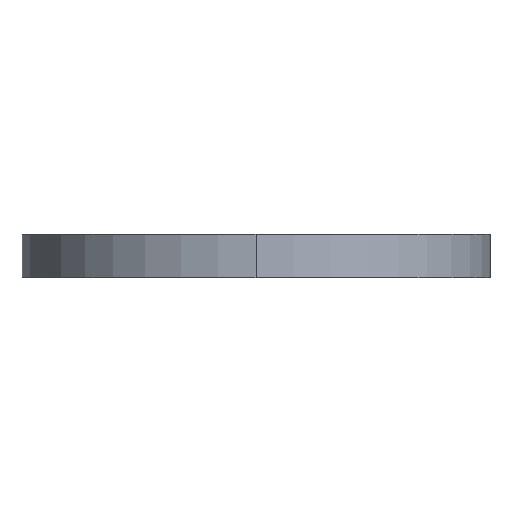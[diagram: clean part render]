
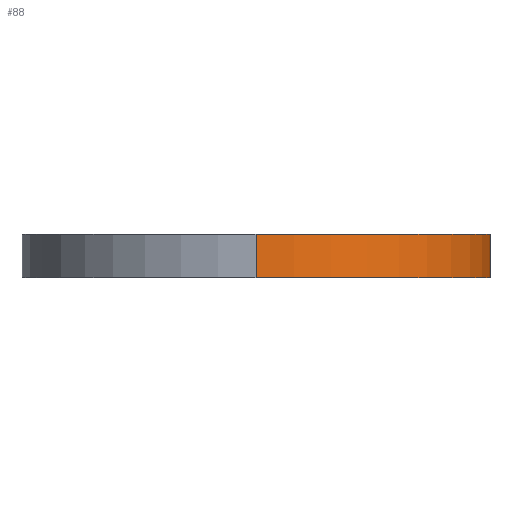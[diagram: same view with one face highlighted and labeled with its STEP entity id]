
A CAD part, left-side view. The second image highlights one B-rep face of the part: STEP entity #88.
In plain terms, the highlighted cylindrical face has radius 21.5 mm (diameter 43 mm), a partial arc.
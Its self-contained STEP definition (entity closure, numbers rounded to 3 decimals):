
#35 = CARTESIAN_POINT ( 'NONE',  ( -21.5, 0., 0. ) ) ;
#88 = ADVANCED_FACE ( 'NONE', ( #656 ), #309, .T. ) ;
#126 = DIRECTION ( 'NONE',  ( 0., 0., -1. ) ) ;
#134 = VERTEX_POINT ( 'NONE', #147 ) ;
#137 = AXIS2_PLACEMENT_3D ( 'NONE', #979, #366, #1001 ) ;
#147 = CARTESIAN_POINT ( 'NONE',  ( -21.5, 0., 4. ) ) ;
#154 = VECTOR ( 'NONE', #919, 1000. ) ;
#178 = EDGE_LOOP ( 'NONE', ( #1032, #518, #1028, #773 ) ) ;
#220 = LINE ( 'NONE', #490, #742 ) ;
#241 = CARTESIAN_POINT ( 'NONE',  ( 16.61, -13.651, 4. ) ) ;
#299 = EDGE_CURVE ( 'NONE', #480, #1083, #607, .T. ) ;
#309 = CYLINDRICAL_SURFACE ( 'NONE', #760, 21.5 ) ;
#365 = LINE ( 'NONE', #723, #154 ) ;
#366 = DIRECTION ( 'NONE',  ( 0., 0., 1. ) ) ;
#480 = VERTEX_POINT ( 'NONE', #35 ) ;
#490 = CARTESIAN_POINT ( 'NONE',  ( -21.5, 0., 4. ) ) ;
#518 = ORIENTED_EDGE ( 'NONE', *, *, #1041, .T. ) ;
#535 = CARTESIAN_POINT ( 'NONE',  ( 16.61, -13.651, 0. ) ) ;
#587 = VERTEX_POINT ( 'NONE', #241 ) ;
#606 = EDGE_CURVE ( 'NONE', #134, #587, #1122, .T. ) ;
#607 = CIRCLE ( 'NONE', #137, 21.5 ) ;
#623 = AXIS2_PLACEMENT_3D ( 'NONE', #1125, #689, #856 ) ;
#656 = FACE_OUTER_BOUND ( 'NONE', #178, .T. ) ;
#675 = DIRECTION ( 'NONE',  ( 0., 0., -1. ) ) ;
#689 = DIRECTION ( 'NONE',  ( 0., 0., 1. ) ) ;
#723 = CARTESIAN_POINT ( 'NONE',  ( 16.61, -13.651, 4. ) ) ;
#742 = VECTOR ( 'NONE', #126, 1000. ) ;
#760 = AXIS2_PLACEMENT_3D ( 'NONE', #836, #675, #1013 ) ;
#773 = ORIENTED_EDGE ( 'NONE', *, *, #846, .T. ) ;
#836 = CARTESIAN_POINT ( 'NONE',  ( 0., 0., 4. ) ) ;
#846 = EDGE_CURVE ( 'NONE', #1083, #587, #365, .T. ) ;
#856 = DIRECTION ( 'NONE',  ( 1., 0., 0. ) ) ;
#919 = DIRECTION ( 'NONE',  ( 0., 0., 1. ) ) ;
#979 = CARTESIAN_POINT ( 'NONE',  ( 0., 0., 0. ) ) ;
#1001 = DIRECTION ( 'NONE',  ( 1., 0., 0. ) ) ;
#1013 = DIRECTION ( 'NONE',  ( -1., 0., 0. ) ) ;
#1028 = ORIENTED_EDGE ( 'NONE', *, *, #299, .T. ) ;
#1032 = ORIENTED_EDGE ( 'NONE', *, *, #606, .F. ) ;
#1041 = EDGE_CURVE ( 'NONE', #134, #480, #220, .T. ) ;
#1083 = VERTEX_POINT ( 'NONE', #535 ) ;
#1122 = CIRCLE ( 'NONE', #623, 21.5 ) ;
#1125 = CARTESIAN_POINT ( 'NONE',  ( 0., 0., 4. ) ) ;
